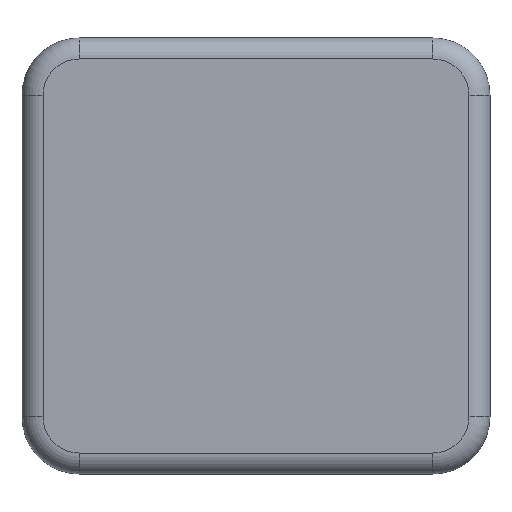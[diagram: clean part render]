
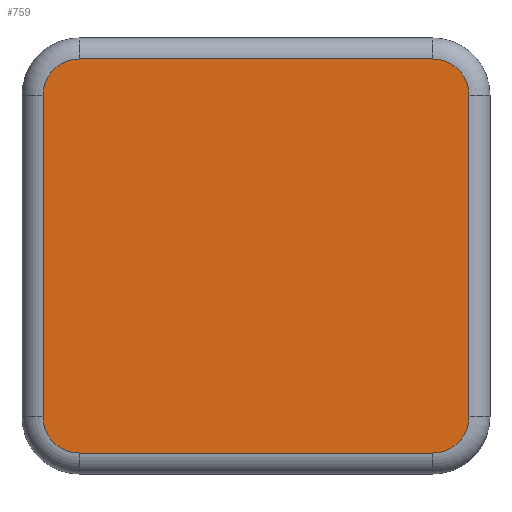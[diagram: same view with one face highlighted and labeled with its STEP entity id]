
A CAD part, front view. The second image highlights one B-rep face of the part: STEP entity #759.
In plain terms, the highlighted planar face has unit normal (0, -1, 0).
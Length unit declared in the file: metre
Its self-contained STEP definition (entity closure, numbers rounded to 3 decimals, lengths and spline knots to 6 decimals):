
#60=CIRCLE('',#840,0.002914);
#61=CIRCLE('',#841,0.002914);
#62=CIRCLE('',#842,0.002914);
#63=CIRCLE('',#843,0.002914);
#160=ORIENTED_EDGE('',*,*,#376,.T.);
#161=ORIENTED_EDGE('',*,*,#377,.T.);
#162=ORIENTED_EDGE('',*,*,#378,.T.);
#163=ORIENTED_EDGE('',*,*,#379,.T.);
#164=ORIENTED_EDGE('',*,*,#380,.T.);
#165=ORIENTED_EDGE('',*,*,#381,.T.);
#166=ORIENTED_EDGE('',*,*,#382,.T.);
#167=ORIENTED_EDGE('',*,*,#383,.T.);
#376=EDGE_CURVE('',#480,#481,#536,.F.);
#377=EDGE_CURVE('',#481,#482,#60,.T.);
#378=EDGE_CURVE('',#482,#483,#537,.T.);
#379=EDGE_CURVE('',#483,#484,#61,.T.);
#380=EDGE_CURVE('',#484,#485,#538,.T.);
#381=EDGE_CURVE('',#485,#486,#62,.T.);
#382=EDGE_CURVE('',#486,#487,#539,.F.);
#383=EDGE_CURVE('',#487,#480,#63,.T.);
#480=VERTEX_POINT('',#1285);
#481=VERTEX_POINT('',#1286);
#482=VERTEX_POINT('',#1288);
#483=VERTEX_POINT('',#1290);
#484=VERTEX_POINT('',#1292);
#485=VERTEX_POINT('',#1294);
#486=VERTEX_POINT('',#1296);
#487=VERTEX_POINT('',#1298);
#536=LINE('',#1284,#604);
#537=LINE('',#1289,#605);
#538=LINE('',#1293,#606);
#539=LINE('',#1297,#607);
#604=VECTOR('',#1014,1.);
#605=VECTOR('',#1017,1.);
#606=VECTOR('',#1020,1.);
#607=VECTOR('',#1023,1.);
#644=EDGE_LOOP('',(#160,#161,#162,#163,#164,#165,#166,#167));
#696=FACE_BOUND('',#644,.T.);
#736=PLANE('',#839);
#759=ADVANCED_FACE('',(#696),#736,.T.);
#839=AXIS2_PLACEMENT_3D('',#1283,#1012,#1013);
#840=AXIS2_PLACEMENT_3D('',#1287,#1015,#1016);
#841=AXIS2_PLACEMENT_3D('',#1291,#1018,#1019);
#842=AXIS2_PLACEMENT_3D('',#1295,#1021,#1022);
#843=AXIS2_PLACEMENT_3D('',#1299,#1024,#1025);
#1012=DIRECTION('',(0.,-1.,0.));
#1013=DIRECTION('',(1.,0.,0.));
#1014=DIRECTION('',(1.,0.,0.));
#1015=DIRECTION('',(0.,-1.,0.));
#1016=DIRECTION('',(-1.,0.,0.));
#1017=DIRECTION('',(0.,0.,-1.));
#1018=DIRECTION('',(0.,-1.,0.));
#1019=DIRECTION('',(-1.,0.,0.));
#1020=DIRECTION('',(1.,0.,0.));
#1021=DIRECTION('',(0.,-1.,0.));
#1022=DIRECTION('',(-1.,0.,0.));
#1023=DIRECTION('',(0.,0.,-1.));
#1024=DIRECTION('',(0.,-1.,0.));
#1025=DIRECTION('',(-1.,0.,0.));
#1283=CARTESIAN_POINT('',(0.176319,-0.00159,0.095142));
#1284=CARTESIAN_POINT('',(0.176319,-0.00159,0.110977));
#1285=CARTESIAN_POINT('',(0.190521,-0.00159,0.110977));
#1286=CARTESIAN_POINT('',(0.162118,-0.00159,0.110977));
#1287=CARTESIAN_POINT('',(0.162118,-0.00159,0.108063));
#1288=CARTESIAN_POINT('',(0.159204,-0.00159,0.108063));
#1289=CARTESIAN_POINT('',(0.159204,-0.00159,0.082222));
#1290=CARTESIAN_POINT('',(0.159204,-0.00159,0.082222));
#1291=CARTESIAN_POINT('',(0.162118,-0.00159,0.082222));
#1292=CARTESIAN_POINT('',(0.162118,-0.00159,0.079308));
#1293=CARTESIAN_POINT('',(0.190521,-0.00159,0.079308));
#1294=CARTESIAN_POINT('',(0.190521,-0.00159,0.079308));
#1295=CARTESIAN_POINT('',(0.190521,-0.00159,0.082222));
#1296=CARTESIAN_POINT('',(0.193435,-0.00159,0.082222));
#1297=CARTESIAN_POINT('',(0.193435,-0.00159,0.095142));
#1298=CARTESIAN_POINT('',(0.193435,-0.00159,0.108063));
#1299=CARTESIAN_POINT('',(0.190521,-0.00159,0.108063));
